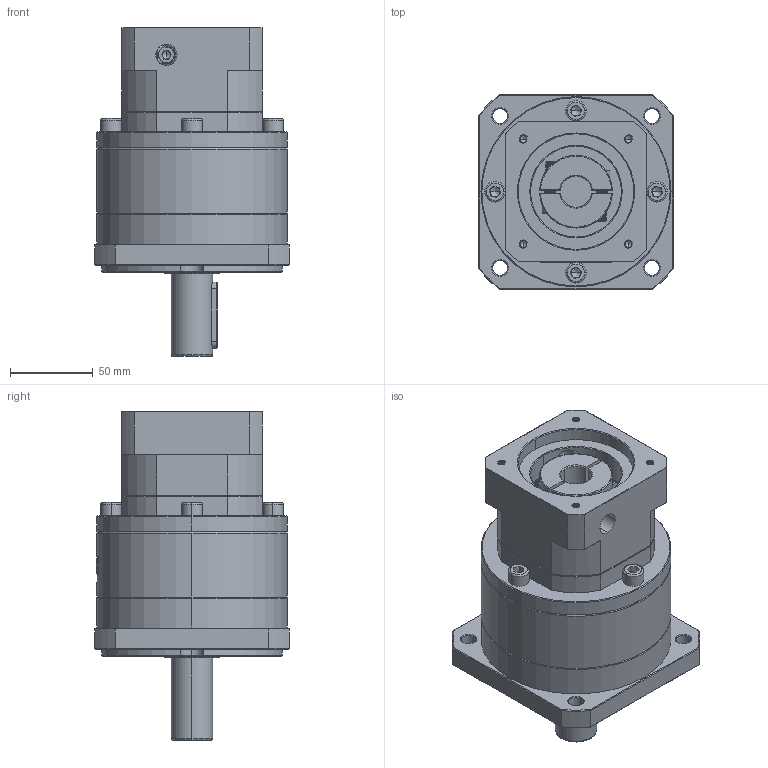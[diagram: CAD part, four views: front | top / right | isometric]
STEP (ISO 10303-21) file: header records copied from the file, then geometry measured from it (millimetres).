
FILE_DESCRIPTION (( 'STEP AP214' ), '1' );
FILE_NAME ('ZF120A-D25-L2-P2-19-70-90-M5.step', '2023-08-27T05:57:30', ( '' ), ( '' ), 'SwSTEP 2.0', 'SolidWorks 2016', '' );
FILE_SCHEMA (( 'AUTOMOTIVE_DESIGN' ));
Length unit declared in the file: millimetre
Products named in the file (1): ZF120A-D25-L2-P2-19-70-90-M5
Bounding box: 118 x 118 x 199 mm (x, y, z)
Volume: 1276809 mm3; surface area: 125777.2 mm2
Topology: 5 solids, 5 shells, 2181 faces, 5830 edges, 3745 vertices
Faces by surface type: plane 1054, bspline 434, cylinder 396, cone 297
Entity records: 120211 total; most frequent: CARTESIAN_POINT 47358, ORIENTED_EDGE 11600, DIRECTION 8248, EDGE_CURVE 5800, VERTEX_POINT 3745, LINE 3080, VECTOR 3080, AXIS2_PLACEMENT_3D 2584
